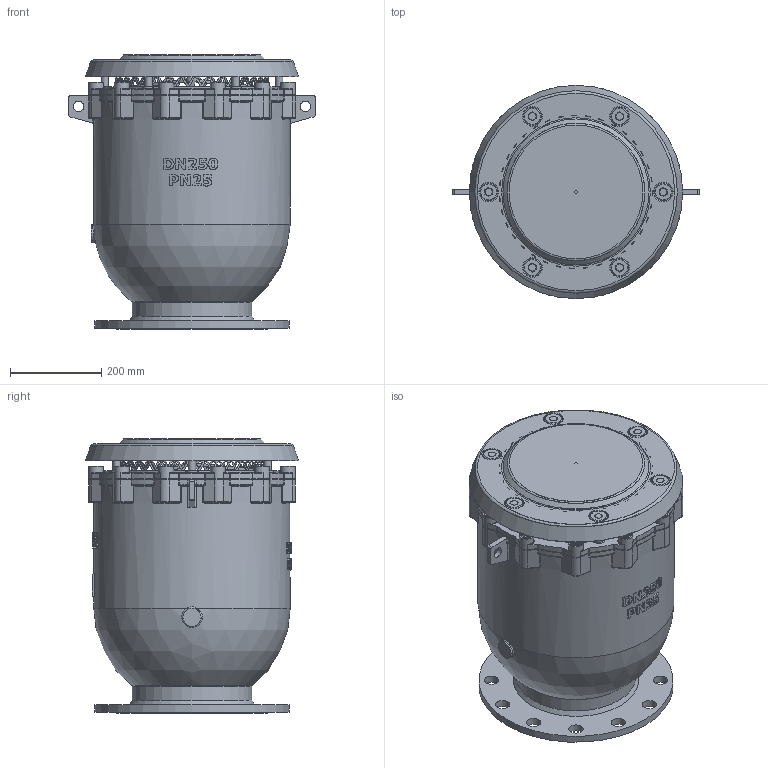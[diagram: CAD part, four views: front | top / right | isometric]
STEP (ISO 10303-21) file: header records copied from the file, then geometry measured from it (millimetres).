
FILE_DESCRIPTION(('STEP AP242'), '1');
FILE_NAME('Âîçäóøíûé êëàïàí DUOJET KX', '', ('UNSPECIFIED'), ('UNSPECIFIED'), 'C3D Converter', 'C3D Toolkit', '');
FILE_SCHEMA(('AP242_MANAGED_MODEL_BASED_3D_ENGINEERING_MIM_LF { 1 0 10303 442 1 1 4 }'));
Length unit declared in the file: millimetre
Assembly tree (45 placements, depth 2):
  (unnamed)
    (unnamed)
    (unnamed)
    (unnamed)
    (unnamed)
    (unnamed)
    (unnamed)
    (unnamed)  x6
    (unnamed)  x6
    (unnamed)
    (unnamed)
    (unnamed)
    (unnamed)  x5
    (unnamed)  x7
    (unnamed)  x6
    (unnamed)  x6
Bounding box: 539 x 467 x 602 mm (x, y, z)
Volume: 11532829.6 mm3; surface area: 4819524.7 mm2
Topology: 59 solids, 60 shells, 2161 faces, 5575 edges, 3590 vertices
Faces by surface type: plane 766, cylinder 528, bspline 519, extrusion 146, torus 107, cone 82, sphere 13
Full cylindrical faces by diameter (mm): 6 x3, 9 x2, 10 x18, 10.5 x6, 11 x12, 12 x6, 16 x54, 22.883 x2, 24 x12, 25.6 x12, 30 x6, 31 x12, 32 x12, 40 x1, 41.117 x1, 62.5 x2, 68.5 x1, 250 x2, 262 x1, 334 x2, 336 x1, 343 x2, 349 x1, 366 x1, 370 x2, 382 x2, 416 x2, 418 x3, 425 x1, 430 x1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
Entity records: 150847 total; most frequent: CARTESIAN_POINT 105705, ORIENTED_EDGE 9236, DIRECTION 6575, EDGE_CURVE 4618, VERTEX_POINT 3102, AXIS2_PLACEMENT_3D 2523, EDGE_LOOP 2305, B_SPLINE_CURVE_WITH_KNOTS 2027
